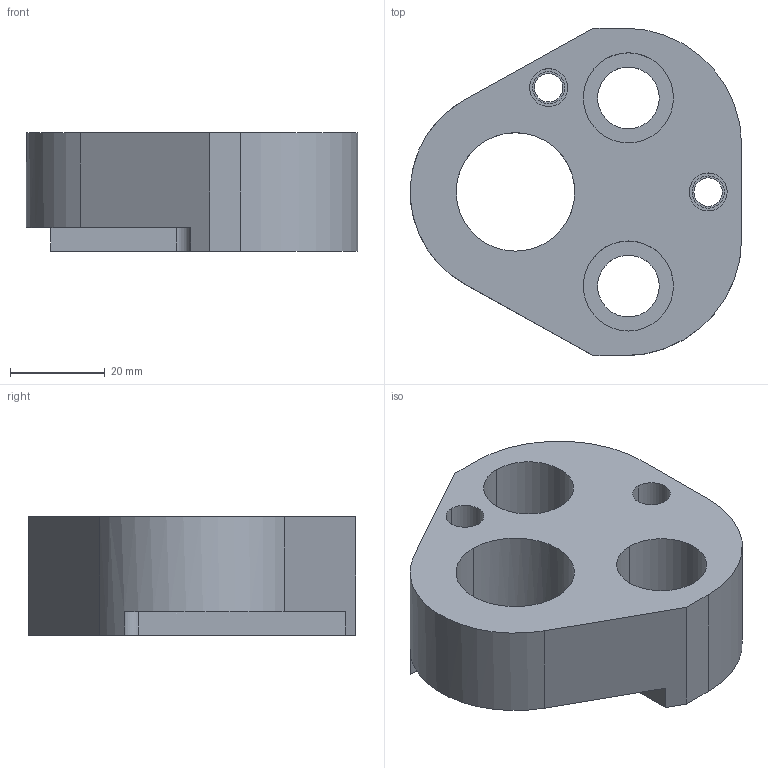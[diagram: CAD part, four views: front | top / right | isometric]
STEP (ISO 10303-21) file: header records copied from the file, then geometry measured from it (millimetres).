
FILE_DESCRIPTION(/* description */ (''),/* implementation_level */ '2;1');
FILE_NAME(/* name */ '3d_25crn-f25_03140_r00.stp',/* time_stamp */ '2011-01-10T14:17:54+09:00',/* author */ ('MISUMI'),/* organization */ (''),/* preprocessor_version */ 'ST-DEVELOPER v11',/* originating_system */ 'UGS - NX 5.0',/* authorisation */ '');
FILE_SCHEMA (('CONFIG_CONTROL_DESIGN'));
Length unit declared in the file: millimetre
Products named in the file (1): 3d_25crn-f25_03140_r00
Bounding box: 69.86 x 69.1 x 25 mm (x, y, z)
Volume: 63148.1 mm3; surface area: 16519.1 mm2
Topology: 1 solids, 1 shells, 44 faces, 111 edges, 74 vertices
Faces by surface type: cylinder 26, plane 16, cone 2
Entity records: 1458 total; most frequent: DIRECTION 256, CARTESIAN_POINT 233, ORIENTED_EDGE 222, EDGE_CURVE 111, AXIS2_PLACEMENT_3D 101, VERTEX_POINT 74, EDGE_LOOP 59, CIRCLE 56
